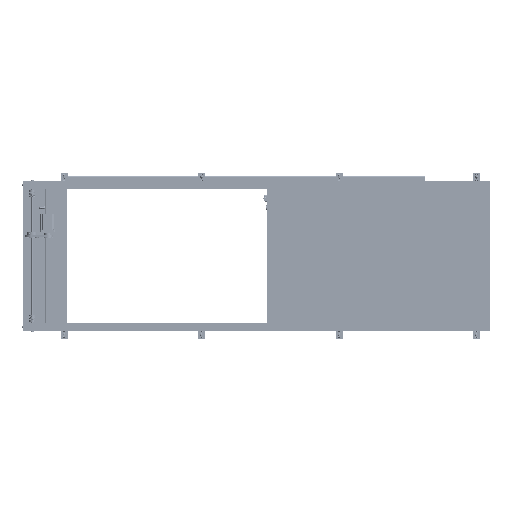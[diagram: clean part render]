
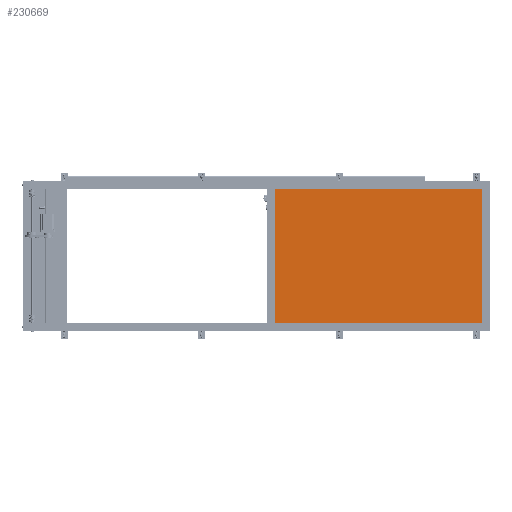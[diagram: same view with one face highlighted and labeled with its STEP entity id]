
A CAD part, left-side view. The second image highlights one B-rep face of the part: STEP entity #230669.
In plain terms, the highlighted planar face has unit normal (-1, 0, 0) as drawn and (0, 0, 1) by its records, which use the part's own axes.
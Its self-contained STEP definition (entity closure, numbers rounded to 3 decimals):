
#23264=FACE_OUTER_BOUND('',#35862,.T.);
#35862=EDGE_LOOP('',(#154441,#154442,#154443,#154444));
#49775=LINE('',#341170,#71781);
#49779=LINE('',#341178,#71785);
#49782=LINE('',#341184,#71788);
#49785=LINE('',#341189,#71791);
#71781=VECTOR('',#270550,0.394);
#71785=VECTOR('',#270556,0.394);
#71788=VECTOR('',#270561,0.394);
#71791=VECTOR('',#270566,0.394);
#93498=VERTEX_POINT('',#341168);
#93499=VERTEX_POINT('',#341169);
#93502=VERTEX_POINT('',#341177);
#93504=VERTEX_POINT('',#341183);
#117572=EDGE_CURVE('',#93498,#93499,#49775,.T.);
#117576=EDGE_CURVE('',#93499,#93502,#49779,.T.);
#117579=EDGE_CURVE('',#93502,#93504,#49782,.T.);
#117582=EDGE_CURVE('',#93504,#93498,#49785,.T.);
#154441=ORIENTED_EDGE('',*,*,#117572,.F.);
#154442=ORIENTED_EDGE('',*,*,#117582,.F.);
#154443=ORIENTED_EDGE('',*,*,#117579,.F.);
#154444=ORIENTED_EDGE('',*,*,#117576,.F.);
#224439=PLANE('',#245017);
#230669=ADVANCED_FACE('',(#23264),#224439,.T.);
#245017=AXIS2_PLACEMENT_3D('',#341191,#270568,#270569);
#270550=DIRECTION('',(0.,1.,0.));
#270556=DIRECTION('',(1.,0.,0.));
#270561=DIRECTION('',(0.,-1.,0.));
#270566=DIRECTION('',(-1.,0.,0.));
#270568=DIRECTION('center_axis',(0.,0.,1.));
#270569=DIRECTION('ref_axis',(1.,0.,0.));
#341168=CARTESIAN_POINT('',(-0.618,-16.531,0.22));
#341169=CARTESIAN_POINT('',(-0.618,14.469,0.22));
#341170=CARTESIAN_POINT('',(-0.618,-16.531,0.22));
#341177=CARTESIAN_POINT('',(46.611,14.469,0.22));
#341178=CARTESIAN_POINT('',(-0.618,14.469,0.22));
#341183=CARTESIAN_POINT('',(46.611,-16.531,0.22));
#341184=CARTESIAN_POINT('',(46.611,14.469,0.22));
#341189=CARTESIAN_POINT('',(46.611,-16.531,0.22));
#341191=CARTESIAN_POINT('Origin',(22.996,-1.031,0.22));
